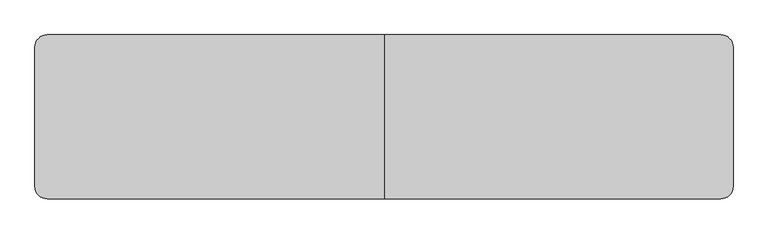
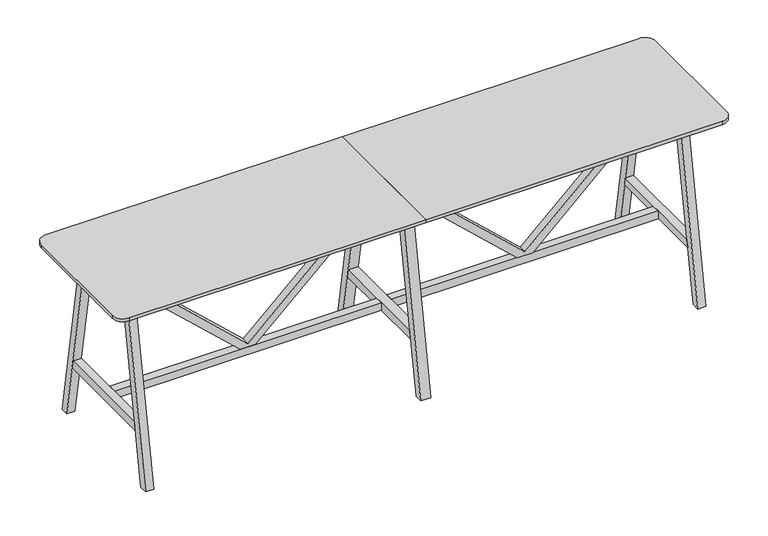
"""IFC4 building model written with IfcOpenShell, lengths in millimetres: furniture geometry, BDG_BossDesign_Tbls_AgentTables6Legs : AGE-HT-6L-3400-800-3D."""

from ifc_helpers import new_model, si_unit, point, frame, frame_2d, origin, place, context, project, spatial, polyline, circle_curve, trimmed, segment, composite_curve, outline, extrude, source, transform, mapped, element, save


def furniture_3627ae5c(model_context):
    return source(origin(), model_context, "Body", "SweptSolid", [
        extrude(outline(polyline([(345.0, 724.0823957), (345.0, 808.4176043), (992.0, 1505.0), (1032.0, 1505.0), (1032.0, 1485.0), (365.0, 766.25), (1032.0, 47.5), (1032.0, 27.5), (992.0, 27.5), (345.0, 724.0823957)])), frame((0.0, -22.5000305, 0.0), z_axis=(0.0, 1.0, 0.0), x_axis=(0.0, 0.0, 1.0)), (0.0, 0.0, 1.0), 45.000061),
        extrude(outline(polyline([(345.0, -724.0823957), (992.0, -27.5), (1032.0, -27.5), (1032.0, -47.5), (365.0, -766.25), (1032.0, -1485.0), (1032.0, -1505.0), (992.0, -1505.0), (345.0, -808.4176043), (345.0, -724.0823957)])), frame((0.0, -22.5000305, 0.0), z_axis=(0.0, 1.0, 0.0), x_axis=(0.0, 0.0, 1.0)), (0.0, 0.0, 1.0), 45.000061),
        extrude(outline(polyline([(400.0, 0.0), (354.9999949, 0.0), (185.5, 970.0), (230.5000051, 970.0), (400.0, 0.0)])), frame((-27.5, 0.0, 0.0), z_axis=(1.0, 0.0, 0.0), x_axis=(0.0, 1.0, 0.0)), (0.0, 0.0, 1.0), 55.0),
        extrude(outline(polyline([(-400.0, 0.0), (-230.5000051, 970.0), (-185.5, 970.0), (-354.9999949, 0.0), (-400.0, 0.0)])), frame((-27.5, 0.0, 0.0), z_axis=(1.0, 0.0, 0.0), x_axis=(0.0, 1.0, 0.0)), (0.0, 0.0, 1.0), 55.0),
        extrude(outline(polyline([(302.5773161, 300.0), (-302.5773161, 300.0), (-294.7139143, 345.0), (294.7139143, 345.0), (302.5773161, 300.0)])), frame((-27.5, 0.0, 0.0), z_axis=(1.0, 0.0, 0.0), x_axis=(0.0, 1.0, 0.0)), (0.0, 0.0, 1.0), 55.0),
        extrude(outline(composite_curve([segment(polyline([(0.0, 400.0), (0.0, -400.0), (-1640.0, -400.0)]), True, "CONTINUOUS"), segment(trimmed(circle_curve(frame_2d((-1640.0, -340.0)), 60.0), [point((-1640.0, -400.0))], [point((-1700.0, -340.0))], False, "CARTESIAN"), True, "CONTINUOUS"), segment(polyline([(-1700.0, -340.0), (-1700.0, 340.0)]), True, "CONTINUOUS"), segment(trimmed(circle_curve(frame_2d((-1640.0, 340.0)), 60.0), [point((-1700.0, 340.0))], [point((-1640.0, 400.0))], False, "CARTESIAN"), True, "CONTINUOUS"), segment(polyline([(-1640.0, 400.0), (0.0, 400.0)]), True, "CONTINUOUS")], self_intersect=False)), frame((0.0, 0.0, 1032.0), z_axis=(0.0, 0.0, 1.0), x_axis=(1.0, 0.0, 0.0)), (0.0, 0.0, 1.0), 18.0),
        extrude(outline(polyline([(-294.7139143, 345.0), (294.7139143, 345.0), (302.5773161, 300.0), (-302.5773161, 300.0), (-294.7139143, 345.0)])), frame((1505.0, 0.0, 0.0), z_axis=(1.0, 0.0, 0.0), x_axis=(0.0, 1.0, 0.0)), (0.0, 0.0, 1.0), 45.0),
        extrude(outline(polyline([(400.0, 0.0), (354.9999949, 0.0), (185.5, 970.0), (230.5000051, 970.0), (400.0, 0.0)])), frame((-1550.0, 0.0, 0.0), z_axis=(1.0, 0.0, 0.0), x_axis=(0.0, 1.0, 0.0)), (0.0, 0.0, 1.0), 45.0),
        extrude(outline(polyline([(-400.0, 0.0), (-230.5000051, 970.0), (-185.5, 970.0), (-354.9999949, 0.0), (-400.0, 0.0)])), frame((-1550.0, 0.0, 0.0), z_axis=(1.0, 0.0, 0.0), x_axis=(0.0, 1.0, 0.0)), (0.0, 0.0, 1.0), 45.0),
        extrude(outline(polyline([(-294.7139143, 345.0), (294.7139143, 345.0), (302.5773161, 300.0), (-302.5773161, 300.0), (-294.7139143, 345.0)])), frame((-1550.0, 0.0, 0.0), z_axis=(1.0, 0.0, 0.0), x_axis=(0.0, 1.0, 0.0)), (0.0, 0.0, 1.0), 45.0),
        extrude(outline(polyline([(-226.6006165, 944.973938), (-204.2770691, 1032.0), (-179.5, 1032.0), (-201.8235474, 944.973938), (-226.6006165, 944.973938)])), frame((-1505.0, 0.0, 0.0), z_axis=(1.0, 0.0, 0.0), x_axis=(0.0, 1.0, 0.0)), (0.0, 0.0, 1.0), 3010.0),
        extrude(outline(polyline([(226.6006165, 944.973938), (201.8235474, 944.973938), (179.5, 1032.0), (204.2770691, 1032.0), (226.6006165, 944.973938)])), frame((-1505.0, 0.0, 0.0), z_axis=(1.0, 0.0, 0.0), x_axis=(0.0, 1.0, 0.0)), (0.0, 0.0, 1.0), 3010.0),
        extrude(outline(polyline([(399.7999878, 0.0), (354.7999827, 0.0), (185.5, 970.0), (230.5000051, 970.0), (399.7999878, 0.0)])), frame((1505.0, 0.0, 0.0), z_axis=(1.0, 0.0, 0.0), x_axis=(0.0, 1.0, 0.0)), (0.0, 0.0, 1.0), 45.0),
        extrude(outline(polyline([(-399.7999878, 0.0), (-230.5000051, 970.0), (-185.5, 970.0), (-354.7999827, 0.0), (-399.7999878, 0.0)])), frame((1505.0, 0.0, 0.0), z_axis=(1.0, 0.0, 0.0), x_axis=(0.0, 1.0, 0.0)), (0.0, 0.0, 1.0), 45.0),
        extrude(outline(polyline([(-27.5, 22.5000305), (-27.5, -22.5000305), (-1505.0, -22.5000305), (-1505.0, 22.5000305), (-27.5, 22.5000305)])), frame((0.0, 0.0, 300.0), z_axis=(0.0, 0.0, 1.0), x_axis=(1.0, 0.0, 0.0)), (0.0, 0.0, 1.0), 45.0),
        extrude(outline(polyline([(27.5, -22.5000305), (27.5, 22.5000305), (1505.0, 22.5000305), (1505.0, -22.5000305), (27.5, -22.5000305)])), frame((0.0, 0.0, 300.0), z_axis=(0.0, 0.0, 1.0), x_axis=(1.0, 0.0, 0.0)), (0.0, 0.0, 1.0), 45.0),
        extrude(outline(composite_curve([segment(trimmed(circle_curve(frame_2d((1640.0, 340.0)), 60.0), [point((1640.0, 400.0))], [point((1700.0, 340.0))], False, "CARTESIAN"), True, "CONTINUOUS"), segment(polyline([(1700.0, 340.0), (1700.0, -340.0)]), True, "CONTINUOUS"), segment(trimmed(circle_curve(frame_2d((1640.0, -340.0)), 60.0), [point((1700.0, -340.0))], [point((1640.0, -400.0))], False, "CARTESIAN"), True, "CONTINUOUS"), segment(polyline([(1640.0, -400.0), (0.0, -400.0), (0.0, 400.0), (1640.0, 400.0)]), True, "CONTINUOUS")], self_intersect=False)), frame((0.0, 0.0, 1032.0), z_axis=(0.0, 0.0, 1.0), x_axis=(1.0, 0.0, 0.0)), (0.0, 0.0, 1.0), 18.0),
    ])


if __name__ == "__main__":
    model = new_model("IFC4")
    model_context = context("Model", 3, world=origin())
    ifc_project = project(units=[si_unit("LENGTHUNIT", "METRE", prefix="MILLI")], contexts=[model_context])
    site = spatial("IfcSite", under=ifc_project)
    building = spatial("IfcBuilding", under=site)
    placement = place(None, origin())
    furniture_shape = furniture_3627ae5c(model_context)
    element("IfcFurniture", 1, ObjectType="BDG_BossDesign_Tbls_AgentTables6Legs : AGE-HT-6L-3400-800-3D", at=placement, inside=building, context=model_context, shape_type="MappedRepresentation", body=[
        mapped(furniture_shape, transform((0.0, 0.0, 0.0), x_axis=(1.0, 0.0, 0.0), y_axis=(0.0, 1.0, 0.0), z_axis=(0.0, 0.0, 1.0))),
    ])
    save(model, "model.ifc")
